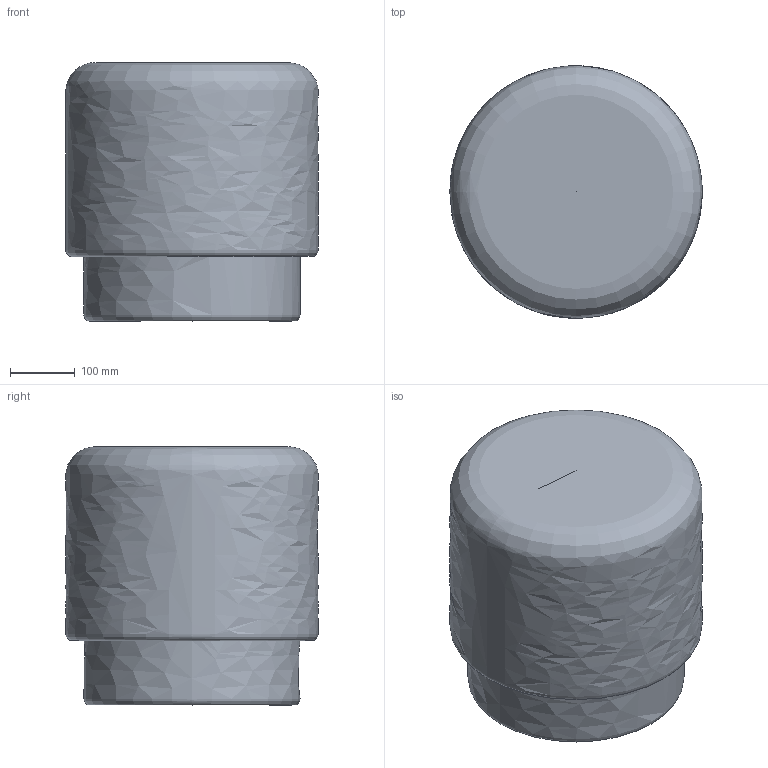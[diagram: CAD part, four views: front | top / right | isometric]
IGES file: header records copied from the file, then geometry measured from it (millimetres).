
Global section: file name: C:\Users\Loick\Desktop\EXPORT GHITA\POUF_Mario collection_Design Alain Gilles.igs; native system: Rhinoceros ( Nov 21 2023 ); preprocessor: Trout Lake IGES 012 Nov 21 2023; date: 231222.171009; units: millimetre
Bounding box: 390 x 390 x 400 mm (x, y, z)
Surface area: 762910.7 mm2 (no closed solid volume)
Topology: 0 solids, 0 shells, 2 faces, 6 edges, 4 vertices
Faces by surface type: bspline 2
